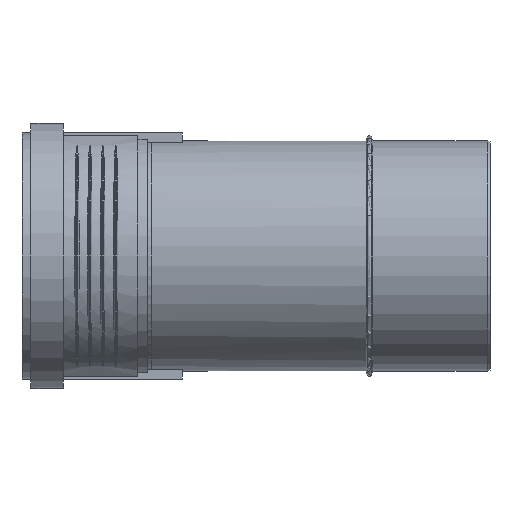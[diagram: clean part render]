
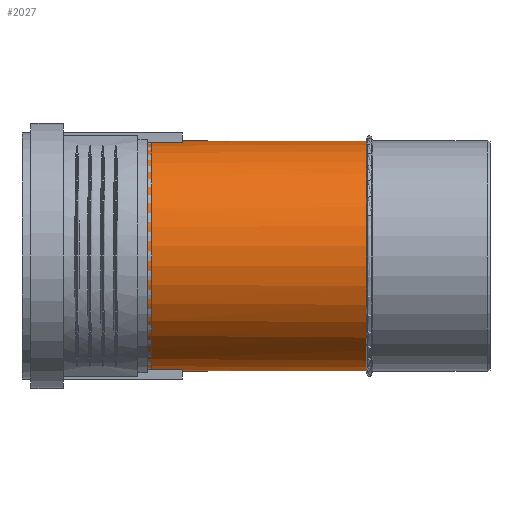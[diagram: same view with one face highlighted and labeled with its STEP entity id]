
A CAD part, left-side view. The second image highlights one B-rep face of the part: STEP entity #2027.
In plain terms, the highlighted cylindrical face has radius 80.125 mm (diameter 160.25 mm), a partial arc.
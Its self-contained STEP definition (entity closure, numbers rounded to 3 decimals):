
#261=CYLINDRICAL_SURFACE($,#2167,80.125);
#491=B_SPLINE_CURVE_WITH_KNOTS($,3,(#3026,#3027,#3028,#3029,#3030,#3031,
#3032,#3033,#3034,#3035,#3036,#3037,#3038,#3039,#3040,#3041,#3042,#3043),
 .UNSPECIFIED.,.F.,.F.,(4,2,2,2,2,2,2,2,4),(33.82,34.22,
35.257,36.294,37.331,38.535,39.739,
40.943,42.146),.UNSPECIFIED.);
#492=B_SPLINE_CURVE_WITH_KNOTS($,3,(#3045,#3046,#3047,#3048,#3049,#3050,
#3051,#3052,#3053,#3054,#3055,#3056,#3057,#3058),.UNSPECIFIED.,.F.,.F.,
(4,2,2,2,2,2,4),(0.,1.913,3.826,5.739,
7.652,9.881,10.724),.UNSPECIFIED.);
#493=B_SPLINE_CURVE_WITH_KNOTS($,3,(#3061,#3062,#3063,#3064,#3065,#3066,
#3067,#3068,#3069,#3070,#3071,#3072,#3073,#3074,#3075,#3076,#3077,#3078,
#3079,#3080,#3081,#3082,#3083,#3084,#3085,#3086,#3087,#3088,#3089,#3090),
 .UNSPECIFIED.,.F.,.F.,(4,2,2,2,2,2,2,2,2,2,2,2,2,2,4),(13.495,
14.338,16.567,18.48,20.393,22.306,
24.219,25.422,26.626,27.83,29.034,
30.071,31.108,32.145,32.545),
 .UNSPECIFIED.);
#598=FACE_OUTER_BOUND($,#718,.T.);
#718=EDGE_LOOP($,(#1481,#1482,#1483,#1484,#1485));
#893=CIRCLE($,#2163,80.125);
#895=CIRCLE($,#2168,80.125);
#992=VERTEX_POINT($,#3005);
#993=VERTEX_POINT($,#3006);
#995=VERTEX_POINT($,#3025);
#996=VERTEX_POINT($,#3044);
#997=VERTEX_POINT($,#3059);
#1199=EDGE_CURVE($,#993,#992,#893,.T.);
#1201=EDGE_CURVE($,#992,#995,#491,.T.);
#1202=EDGE_CURVE($,#995,#996,#492,.T.);
#1203=EDGE_CURVE($,#996,#997,#895,.T.);
#1204=EDGE_CURVE($,#997,#993,#493,.T.);
#1481=ORIENTED_EDGE($,*,*,#1199,.T.);
#1482=ORIENTED_EDGE($,*,*,#1201,.T.);
#1483=ORIENTED_EDGE($,*,*,#1202,.T.);
#1484=ORIENTED_EDGE($,*,*,#1203,.T.);
#1485=ORIENTED_EDGE($,*,*,#1204,.T.);
#2027=ADVANCED_FACE($,(#598),#261,.T.);
#2163=AXIS2_PLACEMENT_3D($,#3019,#2406,#2407);
#2167=AXIS2_PLACEMENT_3D($,#3024,#2414,#2415);
#2168=AXIS2_PLACEMENT_3D($,#3060,#2416,#2417);
#2406=DIRECTION('center_axis',(0.,1.,0.));
#2407=DIRECTION('ref_axis',(1.,0.,0.));
#2414=DIRECTION('center_axis',(0.,1.,0.));
#2415=DIRECTION('ref_axis',(1.,0.,0.));
#2416=DIRECTION('center_axis',(0.,-1.,0.));
#2417=DIRECTION('ref_axis',(1.,0.,0.));
#3005=CARTESIAN_POINT('',(79.863,86.1,6.479));
#3006=CARTESIAN_POINT('',(79.863,86.1,-6.479));
#3019=CARTESIAN_POINT('Origin',(0.,86.1,0.));
#3024=CARTESIAN_POINT('Origin',(0.,0.,0.));
#3025=CARTESIAN_POINT('',(58.172,141.792,55.1));
#3026=CARTESIAN_POINT('Ctrl Pts',(79.863,86.1,6.479));
#3027=CARTESIAN_POINT('Ctrl Pts',(79.752,86.218,7.845));
#3028=CARTESIAN_POINT('Ctrl Pts',(79.605,86.375,9.217));
#3029=CARTESIAN_POINT('Ctrl Pts',(78.949,87.081,14.139));
#3030=CARTESIAN_POINT('Ctrl Pts',(78.231,87.862,17.672));
#3031=CARTESIAN_POINT('Ctrl Pts',(76.386,89.978,24.443));
#3032=CARTESIAN_POINT('Ctrl Pts',(75.26,91.315,27.686));
#3033=CARTESIAN_POINT('Ctrl Pts',(72.777,94.51,33.675));
#3034=CARTESIAN_POINT('Ctrl Pts',(71.423,96.371,36.421));
#3035=CARTESIAN_POINT('Ctrl Pts',(68.518,100.832,41.661));
#3036=CARTESIAN_POINT('Ctrl Pts',(66.877,103.649,44.208));
#3037=CARTESIAN_POINT('Ctrl Pts',(63.837,110.041,48.495));
#3038=CARTESIAN_POINT('Ctrl Pts',(62.446,113.619,50.234));
#3039=CARTESIAN_POINT('Ctrl Pts',(60.237,121.258,52.863));
#3040=CARTESIAN_POINT('Ctrl Pts',(59.415,125.335,53.763));
#3041=CARTESIAN_POINT('Ctrl Pts',(58.385,133.596,54.879));
#3042=CARTESIAN_POINT('Ctrl Pts',(58.172,137.779,55.1));
#3043=CARTESIAN_POINT('Ctrl Pts',(58.172,141.792,55.1));
#3044=CARTESIAN_POINT('',(79.068,238.42,12.974));
#3045=CARTESIAN_POINT('Ctrl Pts',(58.172,141.792,55.1));
#3046=CARTESIAN_POINT('Ctrl Pts',(58.172,148.169,55.1));
#3047=CARTESIAN_POINT('Ctrl Pts',(58.697,154.714,54.556));
#3048=CARTESIAN_POINT('Ctrl Pts',(60.432,167.863,52.628));
#3049=CARTESIAN_POINT('Ctrl Pts',(61.64,174.466,51.24));
#3050=CARTESIAN_POINT('Ctrl Pts',(64.41,187.419,47.711));
#3051=CARTESIAN_POINT('Ctrl Pts',(65.972,193.766,45.569));
#3052=CARTESIAN_POINT('Ctrl Pts',(69.171,205.856,40.549));
#3053=CARTESIAN_POINT('Ctrl Pts',(70.808,211.599,37.673));
#3054=CARTESIAN_POINT('Ctrl Pts',(74.173,222.965,30.596));
#3055=CARTESIAN_POINT('Ctrl Pts',(76.116,229.198,25.733));
#3056=CARTESIAN_POINT('Ctrl Pts',(78.168,235.636,17.744));
#3057=CARTESIAN_POINT('Ctrl Pts',(78.666,237.181,15.419));
#3058=CARTESIAN_POINT('Ctrl Pts',(79.068,238.42,12.974));
#3059=CARTESIAN_POINT('',(79.068,238.42,-12.974));
#3060=CARTESIAN_POINT('Origin',(0.,238.42,0.));
#3061=CARTESIAN_POINT('Ctrl Pts',(79.068,238.42,-12.974));
#3062=CARTESIAN_POINT('Ctrl Pts',(78.666,237.181,-15.419));
#3063=CARTESIAN_POINT('Ctrl Pts',(78.168,235.636,-17.744));
#3064=CARTESIAN_POINT('Ctrl Pts',(76.116,229.198,-25.733));
#3065=CARTESIAN_POINT('Ctrl Pts',(74.173,222.965,-30.596));
#3066=CARTESIAN_POINT('Ctrl Pts',(70.808,211.599,-37.673));
#3067=CARTESIAN_POINT('Ctrl Pts',(69.171,205.856,-40.549));
#3068=CARTESIAN_POINT('Ctrl Pts',(65.972,193.766,-45.569));
#3069=CARTESIAN_POINT('Ctrl Pts',(64.41,187.419,-47.711));
#3070=CARTESIAN_POINT('Ctrl Pts',(61.64,174.466,-51.24));
#3071=CARTESIAN_POINT('Ctrl Pts',(60.432,167.863,-52.628));
#3072=CARTESIAN_POINT('Ctrl Pts',(58.697,154.714,-54.556));
#3073=CARTESIAN_POINT('Ctrl Pts',(58.172,148.169,-55.1));
#3074=CARTESIAN_POINT('Ctrl Pts',(58.172,137.779,-55.1));
#3075=CARTESIAN_POINT('Ctrl Pts',(58.385,133.596,-54.879));
#3076=CARTESIAN_POINT('Ctrl Pts',(59.415,125.335,-53.763));
#3077=CARTESIAN_POINT('Ctrl Pts',(60.237,121.258,-52.863));
#3078=CARTESIAN_POINT('Ctrl Pts',(62.446,113.619,-50.234));
#3079=CARTESIAN_POINT('Ctrl Pts',(63.837,110.041,-48.495));
#3080=CARTESIAN_POINT('Ctrl Pts',(66.877,103.649,-44.208));
#3081=CARTESIAN_POINT('Ctrl Pts',(68.518,100.832,-41.661));
#3082=CARTESIAN_POINT('Ctrl Pts',(71.423,96.371,-36.421));
#3083=CARTESIAN_POINT('Ctrl Pts',(72.777,94.51,-33.675));
#3084=CARTESIAN_POINT('Ctrl Pts',(75.26,91.315,-27.686));
#3085=CARTESIAN_POINT('Ctrl Pts',(76.386,89.978,-24.443));
#3086=CARTESIAN_POINT('Ctrl Pts',(78.231,87.862,-17.672));
#3087=CARTESIAN_POINT('Ctrl Pts',(78.949,87.081,-14.139));
#3088=CARTESIAN_POINT('Ctrl Pts',(79.605,86.375,-9.217));
#3089=CARTESIAN_POINT('Ctrl Pts',(79.752,86.218,-7.845));
#3090=CARTESIAN_POINT('Ctrl Pts',(79.863,86.1,-6.479));
